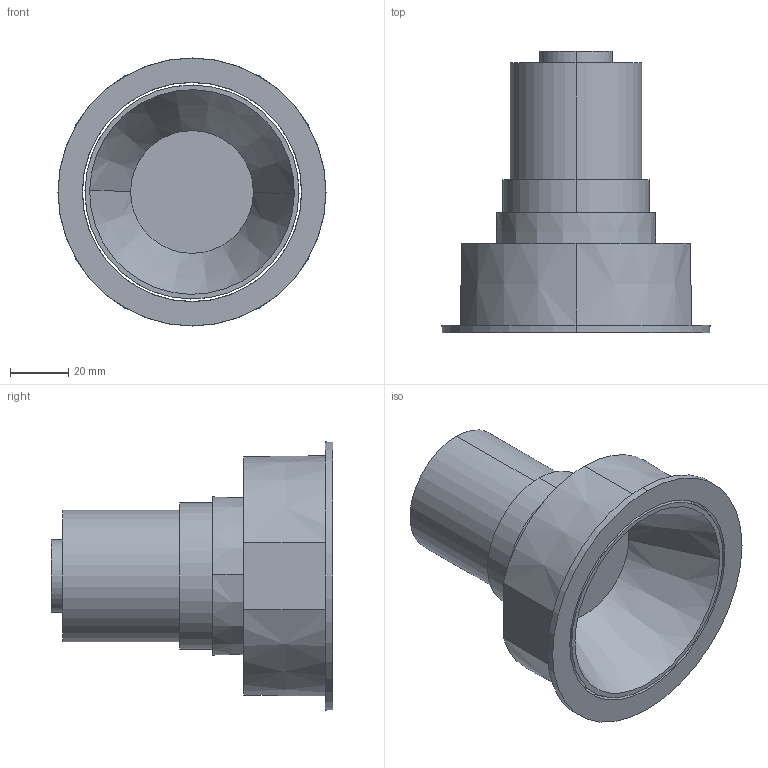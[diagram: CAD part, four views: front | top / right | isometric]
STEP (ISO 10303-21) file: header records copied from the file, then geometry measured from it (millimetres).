
FILE_DESCRIPTION (( 'STEP AP214' ), '1' );
FILE_NAME ('RINGO TILT 1-6W.STEP', '2017-08-22T12:11:49', ( 'Ofitecnic3' ), ( 'Microsoft' ), 'SwSTEP 2.0', 'SolidWorks 2016', '' );
FILE_SCHEMA (( 'AUTOMOTIVE_DESIGN' ));
Length unit declared in the file: millimetre
Products named in the file (4): RINGO TILT 1-6W; MODULOS VS-BIM_6W; Exterior Ringo-BIM_01; Interior Ringo-BIM_ringO_1
Assembly tree (3 placements, depth 2):
  RINGO TILT 1-6W
    Exterior Ringo-BIM_01
    Interior Ringo-BIM_ringO_1
    MODULOS VS-BIM_6W
Bounding box: 91.69 x 96.3 x 91.69 mm (x, y, z)
Volume: 150201.3 mm3; surface area: 62114.8 mm2
Topology: 3 solids, 3 shells, 81 faces, 193 edges, 126 vertices
Faces by surface type: plane 42, cone 24, bspline 9, cylinder 6
Entity records: 3476 total; most frequent: CARTESIAN_POINT 1343, ORIENTED_EDGE 386, DIRECTION 366, EDGE_CURVE 193, AXIS2_PLACEMENT_3D 134, VERTEX_POINT 126, LINE 98, VECTOR 98
